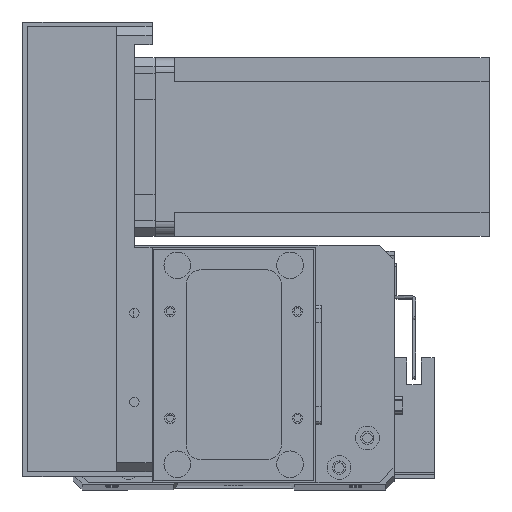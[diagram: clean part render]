
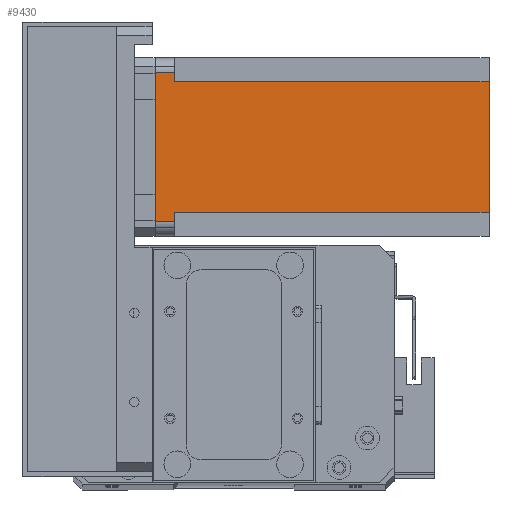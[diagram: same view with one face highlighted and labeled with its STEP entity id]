
A CAD part, top view. The second image highlights one B-rep face of the part: STEP entity #9430.
In plain terms, the highlighted planar face has unit normal (0, 0, 1) as drawn and (0, -1, 0) by its records, which use the part's own axes.
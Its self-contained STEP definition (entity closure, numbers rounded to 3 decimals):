
#8 = VERTEX_POINT ( 'NONE', #24539 ) ;
#439 = VERTEX_POINT ( 'NONE', #19942 ) ;
#817 = AXIS2_PLACEMENT_3D ( 'NONE', #11120, #13429, #29706 ) ;
#1210 = DIRECTION ( 'NONE',  ( 0., 0., 1. ) ) ;
#1401 = ORIENTED_EDGE ( 'NONE', *, *, #29532, .T. ) ;
#1538 = DIRECTION ( 'NONE',  ( 0., 0., -1. ) ) ;
#2073 = VECTOR ( 'NONE', #1538, 1000. ) ;
#2225 = VERTEX_POINT ( 'NONE', #29986 ) ;
#2488 = FACE_OUTER_BOUND ( 'NONE', #25803, .T. ) ;
#2715 = VERTEX_POINT ( 'NONE', #23460 ) ;
#3111 = VERTEX_POINT ( 'NONE', #18748 ) ;
#3403 = CARTESIAN_POINT ( 'NONE',  ( 0., 0., 0. ) ) ;
#3692 = VERTEX_POINT ( 'NONE', #12676 ) ;
#3923 = CARTESIAN_POINT ( 'NONE',  ( 8., 0., -6.5 ) ) ;
#4570 = LINE ( 'NONE', #23556, #28738 ) ;
#5471 = ORIENTED_EDGE ( 'NONE', *, *, #21227, .F. ) ;
#5559 = EDGE_CURVE ( 'NONE', #3111, #20211, #21488, .T. ) ;
#6462 = DIRECTION ( 'NONE',  ( -1., 0., 0. ) ) ;
#6597 = ORIENTED_EDGE ( 'NONE', *, *, #24963, .F. ) ;
#7049 = DIRECTION ( 'NONE',  ( 0., 0., -1. ) ) ;
#7057 = EDGE_CURVE ( 'NONE', #2225, #29183, #8304, .T. ) ;
#7113 = DIRECTION ( 'NONE',  ( 1., 0., 0. ) ) ;
#7180 = ORIENTED_EDGE ( 'NONE', *, *, #10071, .T. ) ;
#7338 = DIRECTION ( 'NONE',  ( 1., 0., 0. ) ) ;
#7787 = CARTESIAN_POINT ( 'NONE',  ( 52., 0., -6.5 ) ) ;
#8304 = LINE ( 'NONE', #9625, #20787 ) ;
#9430 = ADVANCED_FACE ( 'NONE', ( #2488 ), #25142, .T. ) ;
#9584 = DIRECTION ( 'NONE',  ( 0., 0., 1. ) ) ;
#9625 = CARTESIAN_POINT ( 'NONE',  ( 8., 0., -112.5 ) ) ;
#10071 = EDGE_CURVE ( 'NONE', #8, #439, #20247, .T. ) ;
#11120 = CARTESIAN_POINT ( 'NONE',  ( 0., 0., -112.5 ) ) ;
#11276 = VECTOR ( 'NONE', #6462, 1000. ) ;
#12397 = EDGE_CURVE ( 'NONE', #3111, #3692, #23456, .T. ) ;
#12676 = CARTESIAN_POINT ( 'NONE',  ( 52., 0., -112.5 ) ) ;
#12982 = CARTESIAN_POINT ( 'NONE',  ( 8., 0., -6.5 ) ) ;
#13429 = DIRECTION ( 'NONE',  ( 0., -1., 0. ) ) ;
#14597 = ORIENTED_EDGE ( 'NONE', *, *, #5559, .T. ) ;
#14836 = LINE ( 'NONE', #15442, #15586 ) ;
#15442 = CARTESIAN_POINT ( 'NONE',  ( 55., 0., -112.5 ) ) ;
#15586 = VECTOR ( 'NONE', #1210, 1000. ) ;
#15768 = CARTESIAN_POINT ( 'NONE',  ( 5., 0., -112.5 ) ) ;
#15919 = ORIENTED_EDGE ( 'NONE', *, *, #7057, .F. ) ;
#17219 = VECTOR ( 'NONE', #7049, 1000. ) ;
#17514 = LINE ( 'NONE', #3923, #11276 ) ;
#18748 = CARTESIAN_POINT ( 'NONE',  ( 52., 0., -6.5 ) ) ;
#19409 = ORIENTED_EDGE ( 'NONE', *, *, #22068, .T. ) ;
#19942 = CARTESIAN_POINT ( 'NONE',  ( 5., 0., -6.5 ) ) ;
#19959 = DIRECTION ( 'NONE',  ( 1., 0., 0. ) ) ;
#20211 = VERTEX_POINT ( 'NONE', #28136 ) ;
#20247 = LINE ( 'NONE', #15768, #2073 ) ;
#20787 = VECTOR ( 'NONE', #9584, 1000. ) ;
#21227 = EDGE_CURVE ( 'NONE', #29183, #439, #17514, .T. ) ;
#21488 = LINE ( 'NONE', #7787, #22246 ) ;
#22068 = EDGE_CURVE ( 'NONE', #20211, #2715, #14836, .T. ) ;
#22246 = VECTOR ( 'NONE', #7338, 1000. ) ;
#23456 = LINE ( 'NONE', #30281, #17219 ) ;
#23460 = CARTESIAN_POINT ( 'NONE',  ( 55., 0., 0. ) ) ;
#23556 = CARTESIAN_POINT ( 'NONE',  ( 0., 0., -112.5 ) ) ;
#23908 = VECTOR ( 'NONE', #19959, 1000. ) ;
#24539 = CARTESIAN_POINT ( 'NONE',  ( 5., 0., 0. ) ) ;
#24963 = EDGE_CURVE ( 'NONE', #8, #2715, #29969, .T. ) ;
#25142 = PLANE ( 'NONE',  #817 ) ;
#25803 = EDGE_LOOP ( 'NONE', ( #14597, #19409, #6597, #7180, #5471, #15919, #1401, #29440 ) ) ;
#28136 = CARTESIAN_POINT ( 'NONE',  ( 55., 0., -6.5 ) ) ;
#28738 = VECTOR ( 'NONE', #7113, 1000. ) ;
#29183 = VERTEX_POINT ( 'NONE', #12982 ) ;
#29440 = ORIENTED_EDGE ( 'NONE', *, *, #12397, .F. ) ;
#29532 = EDGE_CURVE ( 'NONE', #2225, #3692, #4570, .T. ) ;
#29706 = DIRECTION ( 'NONE',  ( 0., 0., -1. ) ) ;
#29969 = LINE ( 'NONE', #3403, #23908 ) ;
#29986 = CARTESIAN_POINT ( 'NONE',  ( 8., 0., -112.5 ) ) ;
#30281 = CARTESIAN_POINT ( 'NONE',  ( 52., 0., -112.5 ) ) ;
